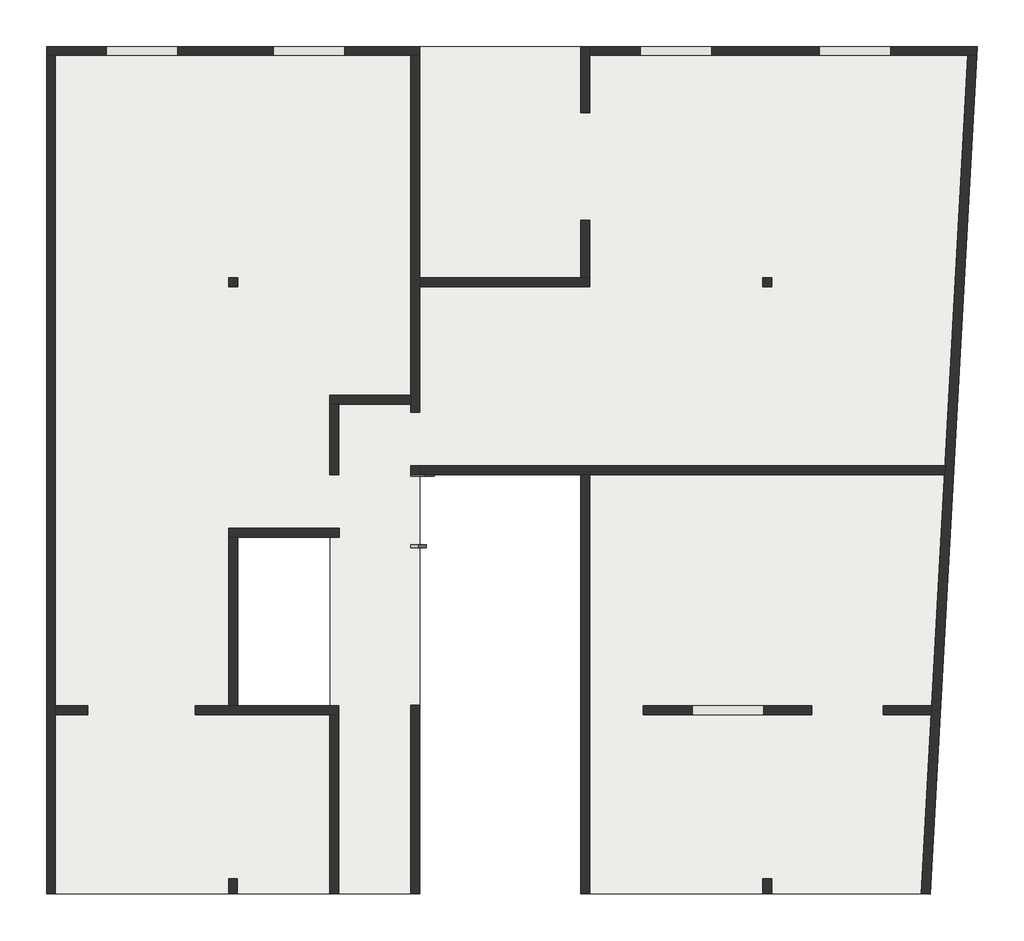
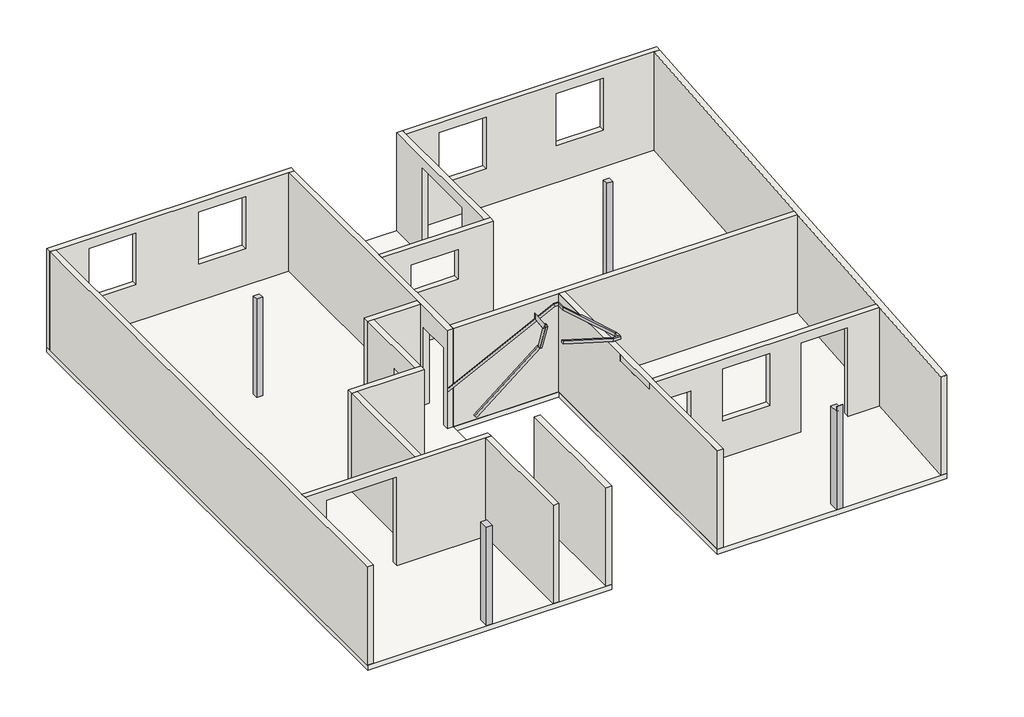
# One storey, incomplete: 17 walls, 4 columns, 2 railings, 1 slab.
"""IFC4 building model written with IfcOpenShell, lengths in millimetres."""

from ifc_helpers import new_model, si_unit, frame, origin, place, context, project, spatial, polyline, outline, extrude, faceted_brep, transform, mapped, element, save
from components import railing_900_mm_8258545f, railing_900_mm_a600a66a

model = new_model("IFC4")

# Units and contexts
model_context = context("Model", 3, world=origin())
ifc_project = project(units=[si_unit("LENGTHUNIT", "METRE", prefix="MILLI")], contexts=[model_context])

# Site, building, storey
site = spatial("IfcSite", under=ifc_project)
building = spatial("IfcBuilding", under=site)
storey = spatial("IfcBuildingStorey", under=building, Name="2ème niveau", Elevation=-30.0)

# Columns
placement = place(None, origin())
element("IfcColumn", 1, ObjectType="Béton - Rectangulaire - Poteau : 15 x 15", at=placement, inside=storey, context=model_context, shape_type="SweptSolid", body=[
    extrude(outline(polyline([(4870.5726427, 2391.7111972), (4870.5726427, 2241.7111972), (4720.5726427, 2241.7111972), (4720.5726427, 2391.7111972), (4870.5726427, 2391.7111972)])), frame((0.0, 0.0, -30.0), z_axis=(0.0, 0.0, 1.0), x_axis=(1.0, 0.0, 0.0)), (0.0, 0.0, 1.0), 2660.0),
])
element("IfcColumn", 2, ObjectType="Béton - Rectangulaire - Poteau : 15 x 15", at=placement, inside=storey, context=model_context, shape_type="SweptSolid", body=[
    extrude(outline(polyline([(-4080.0228675, 2391.7111972), (-4080.0228675, 2241.7111972), (-4230.0228675, 2241.7111972), (-4230.0228675, 2391.7111972), (-4080.0228675, 2391.7111972)])), frame((0.0, 0.0, -30.0), z_axis=(0.0, 0.0, 1.0), x_axis=(1.0, 0.0, 0.0)), (0.0, 0.0, 1.0), 2660.0),
])
element("IfcColumn", 3, ObjectType="Béton - Rectangulaire - Poteau : 15 x 25", at=placement, inside=storey, context=model_context, shape_type="SweptSolid", body=[
    extrude(outline(polyline([(-4080.7072273, -7682.248718), (-4080.7072273, -7932.248718), (-4230.7072273, -7932.248718), (-4230.7072273, -7682.248718), (-4080.7072273, -7682.248718)])), frame((0.0, 0.0, -30.0), z_axis=(0.0, 0.0, 1.0), x_axis=(1.0, 0.0, 0.0)), (0.0, 0.0, 1.0), 2660.0),
])
element("IfcColumn", 4, ObjectType="Béton - Rectangulaire - Poteau : 15 x 25", at=placement, inside=storey, context=model_context, shape_type="SweptSolid", body=[
    extrude(outline(polyline([(-7682.4917142, -30.0), (-7932.4917142, -30.0), (-7932.4917142, 2770.0), (-7931.4125381, 2770.0), (-7931.4125381, 2630.0), (-7682.4917142, 2630.0), (-7682.4917142, -30.0)])), frame((4720.5726427, 0.0, 0.0), z_axis=(1.0, 0.0, 0.0), x_axis=(0.0, 1.0, 0.0)), (0.0, 0.0, 1.0), 150.0),
])

# Railings
railing_900_mm_shape = railing_900_mm_8258545f(model_context)
element("IfcRailing", 5, ObjectType="900 mm", at=placement, inside=storey, context=model_context, shape_type="MappedRepresentation", body=[
    mapped(railing_900_mm_shape, transform((0.0, 0.0, 0.0), x_axis=(1.0, 0.0, 0.0), y_axis=(0.0, 1.0, 0.0), z_axis=(0.0, 0.0, 1.0))),
])
railing_900_mm_2_shape = railing_900_mm_a600a66a(model_context)
element("IfcRailing", 6, ObjectType="900 mm", at=placement, inside=storey, context=model_context, shape_type="MappedRepresentation", body=[
    mapped(railing_900_mm_2_shape, transform((0.0, 0.0, 0.0), x_axis=(1.0, 0.0, 0.0), y_axis=(0.0, 1.0, 0.0), z_axis=(0.0, 0.0, 1.0))),
])

# Slab
element("IfcSlab", 7, ObjectType="Générique  140 mm", at=placement, inside=storey, context=model_context, shape_type="Brep", body=[
    faceted_brep([(8319.9771325, 6266.7111972, -170.0), (7531.5087449, -7931.4125381, -170.0), (1671.5087449, -7931.4125381, -170.0), (1671.5087449, -911.4125381, -170.0), (-1030.0228675, -911.4125381, -170.0), (-1030.0228675, -7933.2888028, -170.0), (-7270.0228675, -7933.2888028, -170.0), (-7270.0228675, 6266.7111972, -170.0), (-1280.0228675, 6266.7111972, -170.0), (-1030.0228675, 6266.7111972, -170.0), (1669.9771325, 6266.7111972, -170.0), (1919.9771325, 6266.7111972, -170.0), (-2530.0228675, -1958.2888028, -170.0), (-4080.0228675, -1958.2888028, -170.0), (-4080.0228675, -4783.2888028, -170.0), (-2530.0228675, -4783.2888028, -170.0), (8319.9771325, 6266.7111972, -30.0), (-7270.0228675, 6266.7111972, -30.0), (-7270.0228675, -7933.2888028, -30.0), (-1030.0228675, -7933.2888028, -30.0), (-1030.0228675, -911.4125381, -30.0), (1671.5087449, -911.4125381, -30.0), (1671.5087449, -7931.4125381, -30.0), (7531.5087449, -7931.4125381, -30.0), (-2530.0228675, -1958.2888028, -30.0), (-2530.0228675, -4783.2888028, -30.0), (-4080.0228675, -4783.2888028, -30.0), (-4080.0228675, -1958.2888028, -30.0)], [[[0, 1, 2, 3, 4, 5, 6, 7, 8, 9, 10, 11], [12, 13, 14, 15]], [[16, 17, 18, 19, 20, 21, 22, 23], [24, 25, 26, 27]], [[1, 0, 16, 23]], [[2, 1, 23, 22]], [[3, 2, 22, 21]], [[4, 3, 21, 20]], [[5, 4, 20, 19]], [[6, 5, 19, 18]], [[7, 6, 18, 17]], [[0, 11, 10, 9, 8, 7, 17, 16]], [[13, 12, 24, 27]], [[14, 13, 27, 26]], [[15, 14, 26, 25]], [[12, 15, 25, 24]]]),
])

# Walls
element("IfcWall", 8, ObjectType="Générique - 150 mm", at=placement, inside=storey, context=model_context, shape_type="Brep", body=[
    faceted_brep([(-7280.0228675, 6116.7111972, -30.0), (-7130.0228675, 6116.7111972, -30.0), (-1180.0228675, 6116.7111972, -30.0), (-1030.0228675, 6116.7111972, -30.0), (-1030.0228675, 6116.7111972, 2630.0), (-1180.0228675, 6116.7111972, 2630.0), (-7130.0228675, 6116.7111972, 2630.0), (-7280.0228675, 6116.7111972, 2630.0), (-5080.0228675, 6116.7111972, 2370.0), (-5080.0228675, 6116.7111972, 970.0), (-6280.0228675, 6116.7111972, 970.0), (-6280.0228675, 6116.7111972, 2370.0), (-2280.0228675, 6116.7111972, 2370.0), (-2280.0228675, 6116.7111972, 970.0), (-3480.0228675, 6116.7111972, 970.0), (-3480.0228675, 6116.7111972, 2370.0), (-7280.0228675, 6266.7111972, -30.0), (-7280.0228675, 6266.7111972, 2630.0), (-1030.0228675, 6266.7111972, 2630.0), (-1030.0228675, 6266.7111972, -30.0), (-5080.0228675, 6266.7111972, 2370.0), (-6280.0228675, 6266.7111972, 2370.0), (-6280.0228675, 6266.7111972, 970.0), (-5080.0228675, 6266.7111972, 970.0), (-2280.0228675, 6266.7111972, 2370.0), (-3480.0228675, 6266.7111972, 2370.0), (-3480.0228675, 6266.7111972, 970.0), (-2280.0228675, 6266.7111972, 970.0)], [[[0, 1, 2, 3, 4, 5, 6, 7], [8, 9, 10, 11], [12, 13, 14, 15]], [[16, 17, 18, 19], [20, 21, 22, 23], [24, 25, 26, 27]], [[3, 2, 1, 0, 16, 19]], [[4, 3, 19, 18]], [[0, 7, 17, 16]], [[9, 8, 20, 23]], [[10, 9, 23, 22]], [[11, 10, 22, 21]], [[8, 11, 21, 20]], [[13, 12, 24, 27]], [[14, 13, 27, 26]], [[15, 14, 26, 25]], [[12, 15, 25, 24]], [[7, 6, 5, 4, 18, 17]]]),
])
element("IfcWall", 9, ObjectType="Générique - 150 mm", at=placement, inside=storey, context=model_context, shape_type="Brep", body=[
    faceted_brep([(-1180.0228675, -758.2888028, 2070.0), (-1180.0228675, -758.2888028, -30.0), (-1180.0228675, -908.2888028, -30.0), (-1180.0228675, -908.2888028, 2630.0), (-1180.0228675, 271.7111972, 2630.0), (-1180.0228675, 421.7111972, 2630.0), (-1180.0228675, 6116.7111972, 2630.0), (-1180.0228675, 6116.7111972, -30.0), (-1180.0228675, 421.7111972, -30.0), (-1180.0228675, 271.7111972, -30.0), (-1180.0228675, 141.7111972, -30.0), (-1180.0228675, 141.7111972, 2070.0), (-1030.0228675, -908.2888028, -30.0), (-1030.0228675, -758.2888028, -30.0), (-1030.0228675, -758.2888028, 2070.0), (-1030.0228675, 141.7111972, 2070.0), (-1030.0228675, 141.7111972, -30.0), (-1030.0228675, 2241.7111972, -30.0), (-1030.0228675, 2391.7111972, -30.0), (-1030.0228675, 6116.7111972, -30.0), (-1030.0228675, 6116.7111972, 2630.0), (-1030.0228675, 2391.7111972, 2630.0), (-1030.0228675, 2241.7111972, 2630.0), (-1030.0228675, -758.2888028, 2630.0), (-1030.0228675, -908.2888028, 2630.0)], [[[0, 1, 2, 3, 4, 5, 6, 7, 8, 9, 10, 11]], [[12, 13, 14, 15, 16, 17, 18, 19, 20, 21, 22, 23, 24]], [[2, 1, 13, 12]], [[10, 9, 8, 7, 19, 18, 17, 16]], [[7, 6, 20, 19]], [[3, 2, 12, 24]], [[16, 15, 11, 10]], [[14, 13, 1, 0]], [[15, 14, 0, 11]], [[6, 5, 4, 3, 24, 23, 22, 21, 20]]]),
])
element("IfcWall", 10, ObjectType="Générique - 150 mm", at=placement, inside=storey, context=model_context, shape_type="Brep", body=[
    faceted_brep([(-1030.0228675, -908.2888028, -30.0), (1669.9771325, -908.2888028, -30.0), (1819.9771325, -908.2888028, -30.0), (7771.2943089, -908.2888028, -30.0), (7771.2943089, -908.2888028, 2630.0), (1819.9771325, -908.2888028, 2630.0), (1669.9771325, -908.2888028, 2630.0), (-1030.0228675, -908.2888028, 2630.0), (-1030.0228675, -758.2888028, -30.0), (-1030.0228675, -758.2888028, 2070.0), (-1030.0228675, -758.2888028, 2630.0), (7779.6243009, -758.2888028, 2630.0), (7779.6243009, -758.2888028, -30.0)], [[[0, 1, 2, 3, 4, 5, 6, 7]], [[8, 9, 10, 11, 12]], [[3, 2, 1, 0, 8, 12]], [[0, 7, 10, 9, 8]], [[4, 3, 12, 11]], [[7, 6, 5, 4, 11, 10]]]),
])
element("IfcWall", 11, ObjectType="Générique - 150 mm", at=placement, inside=storey, context=model_context, shape_type="Brep", body=[
    faceted_brep([(-1030.0228675, 2241.7111972, -30.0), (1819.9771325, 2241.7111972, -30.0), (1819.9771325, 2241.7111972, 2630.0), (-1030.0228675, 2241.7111972, 2630.0), (919.9771325, 2241.7111972, 2170.0), (919.9771325, 2241.7111972, 1370.0), (-280.0228675, 2241.7111972, 1370.0), (-280.0228675, 2241.7111972, 2170.0), (-1030.0228675, 2391.7111972, -30.0), (-1030.0228675, 2391.7111972, 2630.0), (1669.9771325, 2391.7111972, 2630.0), (1819.9771325, 2391.7111972, 2630.0), (1819.9771325, 2391.7111972, -30.0), (1669.9771325, 2391.7111972, -30.0), (919.9771325, 2391.7111972, 2170.0), (-280.0228675, 2391.7111972, 2170.0), (-280.0228675, 2391.7111972, 1370.0), (919.9771325, 2391.7111972, 1370.0)], [[[0, 1, 2, 3], [4, 5, 6, 7]], [[8, 9, 10, 11, 12, 13], [14, 15, 16, 17]], [[1, 0, 8, 13, 12]], [[0, 3, 9, 8]], [[2, 1, 12, 11]], [[5, 4, 14, 17]], [[6, 5, 17, 16]], [[7, 6, 16, 15]], [[4, 7, 15, 14]], [[3, 2, 11, 10, 9]]]),
])
element("IfcWall", 12, ObjectType="Générique - 150 mm", at=placement, inside=storey, context=model_context, shape_type="Brep", body=[
    faceted_brep([(1819.9771325, 2391.7111972, -30.0), (1819.9771325, 3356.7111972, -30.0), (1819.9771325, 3356.7111972, 2370.0), (1819.9771325, 5156.7111972, 2370.0), (1819.9771325, 5156.7111972, -30.0), (1819.9771325, 6116.7111972, -30.0), (1819.9771325, 6266.7111972, -30.0), (1819.9771325, 6266.7111972, 2630.0), (1819.9771325, 6116.7111972, 2630.0), (1819.9771325, 2391.7111972, 2630.0), (1669.9771325, 3356.7111972, 2370.0), (1669.9771325, 3356.7111972, -30.0), (1669.9771325, 2391.7111972, -30.0), (1669.9771325, 2391.7111972, 2630.0), (1669.9771325, 6266.7111972, 2630.0), (1669.9771325, 6266.7111972, -30.0), (1669.9771325, 5156.7111972, -30.0), (1669.9771325, 5156.7111972, 2370.0)], [[[0, 1, 2, 3, 4, 5, 6, 7, 8, 9]], [[10, 11, 12, 13, 14, 15, 16, 17]], [[16, 15, 6, 5, 4]], [[12, 11, 1, 0]], [[0, 9, 13, 12]], [[7, 6, 15, 14]], [[4, 3, 17, 16]], [[2, 1, 11, 10]], [[3, 2, 10, 17]], [[9, 8, 7, 14, 13]]]),
])
element("IfcWall", 13, ObjectType="Générique - 150 mm", at=placement, inside=storey, context=model_context, shape_type="Brep", body=[
    faceted_brep([(1819.9771325, 6116.7111972, -30.0), (8161.4156042, 6116.7111972, -30.0), (8311.6467221, 6116.7111972, -30.0), (8311.6467221, 6116.7111972, 2630.0), (8161.4156042, 6116.7111972, 2630.0), (1819.9771325, 6116.7111972, 2630.0), (3869.9771325, 6116.7111972, 2370.0), (3869.9771325, 6116.7111972, 970.0), (2669.9771325, 6116.7111972, 970.0), (2669.9771325, 6116.7111972, 2370.0), (6869.9771325, 6116.7111972, 2370.0), (6869.9771325, 6116.7111972, 970.0), (5669.9771325, 6116.7111972, 970.0), (5669.9771325, 6116.7111972, 2370.0), (1819.9771325, 6266.7111972, -30.0), (1819.9771325, 6266.7111972, 2630.0), (8319.9767141, 6266.7111972, 2630.0), (8319.9767141, 6266.7111972, -30.0), (3869.9771325, 6266.7111972, 2370.0), (2669.9771325, 6266.7111972, 2370.0), (2669.9771325, 6266.7111972, 970.0), (3869.9771325, 6266.7111972, 970.0), (6869.9771325, 6266.7111972, 2370.0), (5669.9771325, 6266.7111972, 2370.0), (5669.9771325, 6266.7111972, 970.0), (6869.9771325, 6266.7111972, 970.0)], [[[0, 1, 2, 3, 4, 5], [6, 7, 8, 9], [10, 11, 12, 13]], [[14, 15, 16, 17], [18, 19, 20, 21], [22, 23, 24, 25]], [[2, 1, 0, 14, 17]], [[0, 5, 15, 14]], [[3, 2, 17, 16]], [[7, 6, 18, 21]], [[8, 7, 21, 20]], [[9, 8, 20, 19]], [[6, 9, 19, 18]], [[11, 10, 22, 25]], [[12, 11, 25, 24]], [[13, 12, 24, 23]], [[10, 13, 23, 22]], [[5, 4, 3, 16, 15]]]),
])
element("IfcWall", 14, ObjectType="Générique - 150 mm", at=placement, inside=storey, context=model_context, shape_type="Brep", body=[
    faceted_brep([(8161.4156042, 6116.7111972, -30.0), (7779.6243009, -758.2888028, -30.0), (7771.2943089, -908.2888028, -30.0), (7556.102847, -4783.2888028, -30.0), (7547.772855, -4933.2888028, -30.0), (7381.5081487, -7927.2539495, -30.0), (7381.5081487, -7927.2539495, 2630.0), (7547.772855, -4933.2888028, 2630.0), (7556.102847, -4783.2888028, 2630.0), (7771.2943089, -908.2888028, 2630.0), (7779.6243009, -758.2888028, 2630.0), (8161.4156042, 6116.7111972, 2630.0), (8311.6467221, 6116.7111972, -30.0), (8311.6467221, 6116.7111972, 2630.0), (7531.5083278, -7931.4125149, 2630.0), (7531.2773864, -7935.5711266, 2630.0), (7531.2773864, -7935.5711266, -30.0), (7456.3927676, -7931.4125381, 2630.0)], [[[0, 1, 2, 3, 4, 5, 6, 7, 8, 9, 10, 11]], [[12, 13, 14, 15, 16]], [[5, 4, 3, 2, 1, 0, 12, 16]], [[6, 5, 16, 15, 17]], [[0, 11, 13, 12]], [[17, 15, 14]], [[11, 10, 9, 8, 7, 6, 17, 14, 13]]]),
])
element("IfcWall", 15, ObjectType="Générique - 150 mm", at=placement, inside=storey, context=model_context, shape_type="Brep", body=[
    faceted_brep([(1819.9771325, -7931.4125381, -30.0), (1819.9771325, -908.2888028, -30.0), (1819.9771325, -908.2888028, 2630.0), (1819.9771325, -4783.2888028, 2630.0), (1819.9771325, -4933.2888028, 2630.0), (1819.9771325, -7931.4125381, 2630.0), (1669.9771325, -7931.4125381, -30.0), (1669.9771325, -7931.4125381, 2630.0), (1669.9771325, -4933.2888028, 2630.0), (1669.9771325, -4933.2888028, 2455.0), (1669.9771325, -3638.4717953, 2455.0), (1669.9771325, -3638.4717953, 2630.0), (1669.9771325, -908.2888028, 2630.0), (1669.9771325, -908.2888028, -30.0), (1671.5087449, -7931.4125381, 2630.0), (1671.5087449, -908.2888028, 2630.0), (1671.5087449, -3638.4717953, 2630.0), (1671.5087449, -3638.4717953, 2455.0), (1671.5087449, -4933.2888028, 2455.0), (1671.5087449, -4933.2888028, 2630.0), (1671.5087449, -911.4125381, 2630.0)], [[[0, 1, 2, 3, 4, 5]], [[6, 7, 8, 9, 10, 11, 12, 13]], [[1, 0, 6, 13]], [[0, 5, 14, 7, 6]], [[2, 1, 13, 12, 15]], [[16, 17, 18, 19]], [[15, 12, 11, 16, 20]], [[16, 11, 10, 17]], [[8, 7, 14, 19]], [[8, 19, 18, 9]], [[2, 15, 20, 16, 19, 14, 5, 4, 3]], [[10, 9, 18, 17]]]),
])
element("IfcWall", 16, ObjectType="Générique - 150 mm", at=placement, inside=storey, context=model_context, shape_type="Brep", body=[
    faceted_brep([(7556.102847, -4783.2888028, -30.0), (6739.9771325, -4783.2888028, -30.0), (6739.9771325, -4783.2888028, 2370.0), (5539.9771325, -4783.2888028, 2370.0), (5539.9771325, -4783.2888028, -30.0), (2719.9771325, -4783.2888028, -30.0), (2719.9771325, -4783.2888028, 2070.0), (1819.9771325, -4783.2888028, 2070.0), (1819.9771325, -4783.2888028, 2630.0), (7556.102847, -4783.2888028, 2630.0), (3539.9771325, -4783.2888028, 2370.0), (3539.9771325, -4783.2888028, 970.0), (4739.9771325, -4783.2888028, 970.0), (4739.9771325, -4783.2888028, 2370.0), (6739.9771325, -4933.2888028, 2370.0), (6739.9771325, -4933.2888028, -30.0), (7547.772855, -4933.2888028, -30.0), (7547.772855, -4933.2888028, 2630.0), (1819.9771325, -4933.2888028, 2630.0), (1819.9771325, -4933.2888028, 2070.0), (2719.9771325, -4933.2888028, 2070.0), (2719.9771325, -4933.2888028, -30.0), (5539.9771325, -4933.2888028, -30.0), (5539.9771325, -4933.2888028, 2370.0), (3539.9771325, -4933.2888028, 2370.0), (4739.9771325, -4933.2888028, 2370.0), (4739.9771325, -4933.2888028, 970.0), (3539.9771325, -4933.2888028, 970.0)], [[[0, 1, 2, 3, 4, 5, 6, 7, 8, 9], [10, 11, 12, 13]], [[14, 15, 16, 17, 18, 19, 20, 21, 22, 23], [24, 25, 26, 27]], [[22, 21, 5, 4]], [[16, 15, 1, 0]], [[0, 9, 17, 16]], [[18, 8, 7, 19]], [[20, 6, 5, 21]], [[6, 20, 19, 7]], [[4, 3, 23, 22]], [[2, 1, 15, 14]], [[3, 2, 14, 23]], [[11, 10, 24, 27]], [[12, 11, 27, 26]], [[13, 12, 26, 25]], [[10, 13, 25, 24]], [[9, 8, 18, 17]]]),
])
element("IfcWall", 17, ObjectType="Générique - 150 mm", at=placement, inside=storey, context=model_context, shape_type="SweptSolid", body=[
    extrude(outline(polyline([(-1030.0228675, -4773.2888028), (-1030.0228675, -7933.2888028), (-1180.0228675, -7933.2888028), (-1180.0228675, -4773.2888028), (-1030.0228675, -4773.2888028)])), frame((0.0, 0.0, -30.0), z_axis=(0.0, 0.0, 1.0), x_axis=(1.0, 0.0, 0.0)), (0.0, 0.0, 1.0), 2660.0),
])
element("IfcWall", 18, ObjectType="Générique - 150 mm", at=placement, inside=storey, context=model_context, shape_type="Brep", body=[
    faceted_brep([(-2375.0228675, -1808.2888028, -30.0), (-4230.0228675, -1808.2888028, -30.0), (-4230.0228675, -1808.2888028, 2630.0), (-2530.0228675, -1808.2888028, 2630.0), (-2380.0228675, -1808.2888028, 2630.0), (-2375.0228675, -1808.2888028, 2630.0), (-2375.0228675, -1958.2888028, -30.0), (-2375.0228675, -1958.2888028, 2630.0), (-4080.0228675, -1958.2888028, 2630.0), (-4230.0228675, -1958.2888028, 2630.0), (-4230.0228675, -1958.2888028, -30.0), (-4080.0228675, -1958.2888028, -30.0)], [[[0, 1, 2, 3, 4, 5]], [[6, 7, 8, 9, 10, 11]], [[1, 0, 6, 11, 10]], [[0, 5, 7, 6]], [[2, 1, 10, 9]], [[5, 4, 3, 2, 9, 8, 7]]]),
])
element("IfcWall", 19, ObjectType="Générique - 150 mm", at=placement, inside=storey, context=model_context, shape_type="SweptSolid", body=[
    extrude(outline(polyline([(-4230.0228675, -4783.2888028), (-4230.0228675, -1958.2888028), (-4080.0228675, -1958.2888028), (-4080.0228675, -4783.2888028), (-4230.0228675, -4783.2888028)])), frame((0.0, 0.0, -30.0), z_axis=(0.0, 0.0, 1.0), x_axis=(1.0, 0.0, 0.0)), (0.0, 0.0, 1.0), 2660.0),
])
element("IfcWall", 20, ObjectType="Générique - 150 mm", at=placement, inside=storey, context=model_context, shape_type="Brep", body=[
    faceted_brep([(-4790.0228675, -4933.2888028, 2370.0), (-4790.0228675, -4933.2888028, -30.0), (-2530.0228675, -4933.2888028, -30.0), (-2380.0228675, -4933.2888028, -30.0), (-2380.0228675, -4933.2888028, 2630.0), (-2530.0228675, -4933.2888028, 2630.0), (-7130.0228675, -4933.2888028, 2630.0), (-7130.0228675, -4933.2888028, -30.0), (-6590.0228675, -4933.2888028, -30.0), (-6590.0228675, -4933.2888028, 2370.0), (-2380.0228675, -4783.2888028, -30.0), (-4080.0228675, -4783.2888028, -30.0), (-4230.0228675, -4783.2888028, -30.0), (-4790.0228675, -4783.2888028, -30.0), (-4790.0228675, -4783.2888028, 2370.0), (-6590.0228675, -4783.2888028, 2370.0), (-6590.0228675, -4783.2888028, -30.0), (-7130.0228675, -4783.2888028, -30.0), (-7130.0228675, -4783.2888028, 2630.0), (-4230.0228675, -4783.2888028, 2630.0), (-4080.0228675, -4783.2888028, 2630.0), (-2380.0228675, -4783.2888028, 2630.0)], [[[0, 1, 2, 3, 4, 5, 6, 7, 8, 9]], [[10, 11, 12, 13, 14, 15, 16, 17, 18, 19, 20, 21]], [[8, 7, 17, 16]], [[3, 2, 1, 13, 12, 11, 10]], [[4, 3, 10, 21]], [[7, 6, 18, 17]], [[16, 15, 9, 8]], [[14, 13, 1, 0]], [[15, 14, 0, 9]], [[6, 5, 4, 21, 20, 19, 18]]]),
])
element("IfcWall", 21, ObjectType="Générique - 150 mm", at=placement, inside=storey, context=model_context, shape_type="SweptSolid", body=[
    extrude(outline(polyline([(-2530.0228675, -7933.2888028), (-2530.0228675, -4933.2888028), (-2380.0228675, -4933.2888028), (-2380.0228675, -7933.2888028), (-2530.0228675, -7933.2888028)])), frame((0.0, 0.0, -30.0), z_axis=(0.0, 0.0, 1.0), x_axis=(1.0, 0.0, 0.0)), (0.0, 0.0, 1.0), 2660.0),
])
element("IfcWall", 22, ObjectType="Générique - 150 mm", at=placement, inside=storey, context=model_context, shape_type="Brep", body=[
    faceted_brep([(-7130.0228675, -7933.2888028, -30.0), (-7130.0228675, -4933.2888028, -30.0), (-7130.0228675, -4783.2888028, -30.0), (-7130.0228675, 6116.7111972, -30.0), (-7130.0228675, 6116.7111972, 2630.0), (-7130.0228675, -4783.2888028, 2630.0), (-7130.0228675, -4933.2888028, 2630.0), (-7130.0228675, -7933.2888028, 2630.0), (-7280.0228675, -7933.2888028, -30.0), (-7280.0228675, -7933.2888028, 2630.0), (-7280.0228675, 6116.7111972, 2630.0), (-7280.0228675, 6116.7111972, -30.0)], [[[0, 1, 2, 3, 4, 5, 6, 7]], [[8, 9, 10, 11]], [[3, 2, 1, 0, 8, 11]], [[0, 7, 9, 8]], [[4, 3, 11, 10]], [[7, 6, 5, 4, 10, 9]]]),
])
element("IfcWall", 23, ObjectType="Générique - 150 mm", at=placement, inside=storey, context=model_context, shape_type="Brep", body=[
    faceted_brep([(-1180.0228675, 421.7111972, -30.0), (-2530.0228675, 421.7111972, -30.0), (-2530.0228675, 421.7111972, 2630.0), (-1180.0228675, 421.7111972, 2630.0), (-1180.0228675, 271.7111972, -30.0), (-1180.0228675, 271.7111972, 2630.0), (-2380.0228675, 271.7111972, 2630.0), (-2530.0228675, 271.7111972, 2630.0), (-2530.0228675, 271.7111972, -30.0), (-2380.0228675, 271.7111972, -30.0)], [[[0, 1, 2, 3]], [[4, 5, 6, 7, 8, 9]], [[1, 0, 4, 9, 8]], [[0, 3, 5, 4]], [[2, 1, 8, 7]], [[3, 2, 7, 6, 5]]]),
])
element("IfcWall", 24, ObjectType="Générique - 150 mm", at=placement, inside=storey, context=model_context, shape_type="SweptSolid", body=[
    extrude(outline(polyline([(271.7111972, 2630.0), (271.7111972, -30.0), (-908.2888028, -30.0), (-908.2888028, 2070.0), (-1808.2888028, 2070.0), (-1808.2888028, 2630.0), (271.7111972, 2630.0)])), frame((-2530.0228675, 0.0, 0.0), z_axis=(1.0, 0.0, 0.0), x_axis=(0.0, 1.0, 0.0)), (0.0, 0.0, 1.0), 150.0),
])

save(model, "model.ifc")
